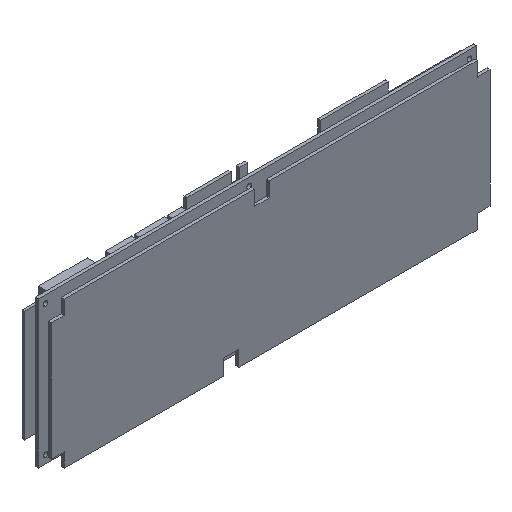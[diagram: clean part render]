
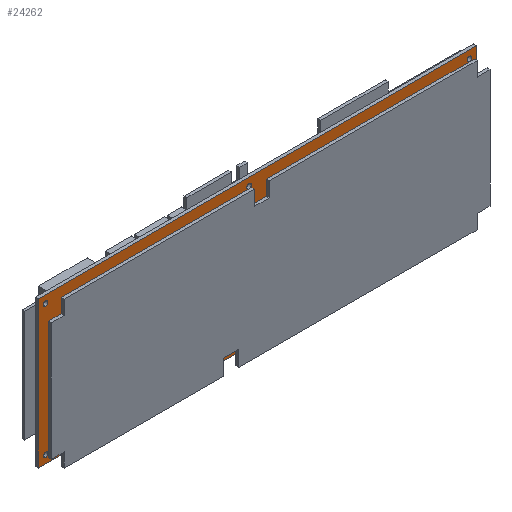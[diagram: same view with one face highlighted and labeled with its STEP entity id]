
A CAD part, isometric view. The second image highlights one B-rep face of the part: STEP entity #24262.
In plain terms, the highlighted planar face has unit normal (0, -1, 0).
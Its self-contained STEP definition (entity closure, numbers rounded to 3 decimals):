
#200 = ORIENTED_EDGE ( 'NONE', *, *, #21377, .T. ) ;
#258 = FACE_BOUND ( 'NONE', #23009, .T. ) ;
#496 = VECTOR ( 'NONE', #18275, 1000. ) ;
#765 = CARTESIAN_POINT ( 'NONE',  ( 145., 0., -43.21 ) ) ;
#826 = DIRECTION ( 'NONE',  ( 0., 0., 1. ) ) ;
#1002 = CARTESIAN_POINT ( 'NONE',  ( -145., 0., -43.21 ) ) ;
#1011 = DIRECTION ( 'NONE',  ( 0., 0., 1. ) ) ;
#1087 = EDGE_LOOP ( 'NONE', ( #3709, #21741 ) ) ;
#1433 = VERTEX_POINT ( 'NONE', #3224 ) ;
#1811 = AXIS2_PLACEMENT_3D ( 'NONE', #26564, #7088, #20149 ) ;
#1819 = EDGE_CURVE ( 'NONE', #27532, #10221, #26132, .T. ) ;
#2158 = DIRECTION ( 'NONE',  ( 0., -1., 0. ) ) ;
#2294 = EDGE_CURVE ( 'NONE', #4044, #8837, #20700, .T. ) ;
#2303 = EDGE_CURVE ( 'NONE', #1433, #12227, #26157, .T. ) ;
#2436 = DIRECTION ( 'NONE',  ( 0., -1., 0. ) ) ;
#2802 = AXIS2_PLACEMENT_3D ( 'NONE', #10492, #2158, #21245 ) ;
#2978 = AXIS2_PLACEMENT_3D ( 'NONE', #16361, #3230, #11941 ) ;
#2996 = DIRECTION ( 'NONE',  ( 0., 1., 0. ) ) ;
#3224 = CARTESIAN_POINT ( 'NONE',  ( -145., 0., 46.39 ) ) ;
#3230 = DIRECTION ( 'NONE',  ( 0., 1., 0. ) ) ;
#3709 = ORIENTED_EDGE ( 'NONE', *, *, #21461, .F. ) ;
#3875 = AXIS2_PLACEMENT_3D ( 'NONE', #26516, #2436, #15152 ) ;
#4044 = VERTEX_POINT ( 'NONE', #1002 ) ;
#4162 = ORIENTED_EDGE ( 'NONE', *, *, #22180, .T. ) ;
#4716 = CARTESIAN_POINT ( 'NONE',  ( 0., 0., 0. ) ) ;
#4753 = CARTESIAN_POINT ( 'NONE',  ( 145., 0., 43.21 ) ) ;
#4849 = CARTESIAN_POINT ( 'NONE',  ( 150.075, 0., -50.11 ) ) ;
#4860 = EDGE_LOOP ( 'NONE', ( #11381, #22281 ) ) ;
#4980 = ORIENTED_EDGE ( 'NONE', *, *, #2294, .T. ) ;
#5133 = ORIENTED_EDGE ( 'NONE', *, *, #11841, .T. ) ;
#6093 = EDGE_CURVE ( 'NONE', #16993, #18977, #16824, .T. ) ;
#6243 = DIRECTION ( 'NONE',  ( 1., 0., 0. ) ) ;
#6284 = CARTESIAN_POINT ( 'NONE',  ( 145., 0., -46.39 ) ) ;
#6722 = FACE_BOUND ( 'NONE', #15153, .T. ) ;
#7088 = DIRECTION ( 'NONE',  ( 0., 1., 0. ) ) ;
#7676 = DIRECTION ( 'NONE',  ( 0., 1., 0. ) ) ;
#7777 = AXIS2_PLACEMENT_3D ( 'NONE', #27687, #8179, #9723 ) ;
#8179 = DIRECTION ( 'NONE',  ( 0., 1., 0. ) ) ;
#8504 = CARTESIAN_POINT ( 'NONE',  ( -150.075, 0., 50.11 ) ) ;
#8693 = DIRECTION ( 'NONE',  ( 0., 1., 0. ) ) ;
#8769 = CIRCLE ( 'NONE', #27846, 1.59 ) ;
#8837 = VERTEX_POINT ( 'NONE', #12423 ) ;
#9140 = FACE_OUTER_BOUND ( 'NONE', #23630, .T. ) ;
#9170 = DIRECTION ( 'NONE',  ( 0., -1., 0. ) ) ;
#9324 = CARTESIAN_POINT ( 'NONE',  ( 150.075, 0., -50.11 ) ) ;
#9411 = DIRECTION ( 'NONE',  ( 0., 0., 1. ) ) ;
#9501 = EDGE_CURVE ( 'NONE', #26508, #25175, #23617, .T. ) ;
#9650 = AXIS2_PLACEMENT_3D ( 'NONE', #22633, #9170, #26517 ) ;
#9680 = EDGE_CURVE ( 'NONE', #8837, #4044, #24558, .T. ) ;
#9723 = DIRECTION ( 'NONE',  ( 0., 0., 1. ) ) ;
#9837 = CARTESIAN_POINT ( 'NONE',  ( -145., 0., 44.8 ) ) ;
#9961 = DIRECTION ( 'NONE',  ( 0., 1., 0. ) ) ;
#10177 = CARTESIAN_POINT ( 'NONE',  ( -5.85, 0., 46.39 ) ) ;
#10221 = VERTEX_POINT ( 'NONE', #765 ) ;
#10492 = CARTESIAN_POINT ( 'NONE',  ( 145., 0., -44.8 ) ) ;
#10590 = AXIS2_PLACEMENT_3D ( 'NONE', #21185, #8693, #17362 ) ;
#10764 = VERTEX_POINT ( 'NONE', #15920 ) ;
#10969 = CARTESIAN_POINT ( 'NONE',  ( -150.075, 0., -50.11 ) ) ;
#10986 = EDGE_CURVE ( 'NONE', #10221, #27532, #14205, .T. ) ;
#11278 = FACE_BOUND ( 'NONE', #19786, .T. ) ;
#11279 = EDGE_CURVE ( 'NONE', #10764, #19670, #22805, .T. ) ;
#11381 = ORIENTED_EDGE ( 'NONE', *, *, #13854, .T. ) ;
#11453 = ORIENTED_EDGE ( 'NONE', *, *, #9680, .T. ) ;
#11583 = ORIENTED_EDGE ( 'NONE', *, *, #19759, .F. ) ;
#11841 = EDGE_CURVE ( 'NONE', #19670, #10764, #26974, .T. ) ;
#11941 = DIRECTION ( 'NONE',  ( 0., 0., 1. ) ) ;
#11967 = VERTEX_POINT ( 'NONE', #27847 ) ;
#12227 = VERTEX_POINT ( 'NONE', #24892 ) ;
#12423 = CARTESIAN_POINT ( 'NONE',  ( -145., 0., -46.39 ) ) ;
#13266 = FACE_BOUND ( 'NONE', #24094, .T. ) ;
#13409 = CARTESIAN_POINT ( 'NONE',  ( -27., 0., -43.21 ) ) ;
#13730 = CIRCLE ( 'NONE', #9650, 1.59 ) ;
#13828 = AXIS2_PLACEMENT_3D ( 'NONE', #13872, #24789, #1011 ) ;
#13854 = EDGE_CURVE ( 'NONE', #25175, #26508, #14288, .T. ) ;
#13872 = CARTESIAN_POINT ( 'NONE',  ( -5.85, 0., 44.8 ) ) ;
#13908 = AXIS2_PLACEMENT_3D ( 'NONE', #23132, #20576, #14364 ) ;
#14205 = CIRCLE ( 'NONE', #2802, 1.59 ) ;
#14288 = CIRCLE ( 'NONE', #13828, 1.59 ) ;
#14364 = DIRECTION ( 'NONE',  ( 0., 0., 1. ) ) ;
#14595 = EDGE_CURVE ( 'NONE', #16857, #11967, #15713, .T. ) ;
#15152 = DIRECTION ( 'NONE',  ( 0., 0., 1. ) ) ;
#15153 = EDGE_LOOP ( 'NONE', ( #5133, #25185 ) ) ;
#15408 = FACE_BOUND ( 'NONE', #4860, .T. ) ;
#15553 = PLANE ( 'NONE',  #21950 ) ;
#15713 = CIRCLE ( 'NONE', #19331, 1.59 ) ;
#15920 = CARTESIAN_POINT ( 'NONE',  ( -27., 0., -46.39 ) ) ;
#16190 = VECTOR ( 'NONE', #6243, 1000. ) ;
#16302 = CARTESIAN_POINT ( 'NONE',  ( -150.075, 0., -50.11 ) ) ;
#16361 = CARTESIAN_POINT ( 'NONE',  ( -145., 0., -44.8 ) ) ;
#16514 = CARTESIAN_POINT ( 'NONE',  ( 150.075, 0., 50.11 ) ) ;
#16593 = ORIENTED_EDGE ( 'NONE', *, *, #10986, .F. ) ;
#16661 = CARTESIAN_POINT ( 'NONE',  ( -150.075, 0., 50.11 ) ) ;
#16824 = LINE ( 'NONE', #10969, #28031 ) ;
#16857 = VERTEX_POINT ( 'NONE', #4753 ) ;
#16993 = VERTEX_POINT ( 'NONE', #16302 ) ;
#17362 = DIRECTION ( 'NONE',  ( 0., 0., 1. ) ) ;
#17367 = ORIENTED_EDGE ( 'NONE', *, *, #25500, .F. ) ;
#17385 = ORIENTED_EDGE ( 'NONE', *, *, #1819, .F. ) ;
#18275 = DIRECTION ( 'NONE',  ( 0., 0., 1. ) ) ;
#18304 = ORIENTED_EDGE ( 'NONE', *, *, #2303, .T. ) ;
#18522 = DIRECTION ( 'NONE',  ( 0., 0., 1. ) ) ;
#18750 = CARTESIAN_POINT ( 'NONE',  ( -27., 0., -44.8 ) ) ;
#18977 = VERTEX_POINT ( 'NONE', #4849 ) ;
#19185 = LINE ( 'NONE', #16661, #16190 ) ;
#19331 = AXIS2_PLACEMENT_3D ( 'NONE', #22722, #22444, #9411 ) ;
#19632 = DIRECTION ( 'NONE',  ( 1., 0., 0. ) ) ;
#19670 = VERTEX_POINT ( 'NONE', #13409 ) ;
#19759 = EDGE_CURVE ( 'NONE', #16993, #24739, #22318, .T. ) ;
#19786 = EDGE_LOOP ( 'NONE', ( #16593, #17385 ) ) ;
#20148 = ORIENTED_EDGE ( 'NONE', *, *, #6093, .T. ) ;
#20149 = DIRECTION ( 'NONE',  ( 0., 0., 1. ) ) ;
#20210 = CARTESIAN_POINT ( 'NONE',  ( -150.075, 0., -50.11 ) ) ;
#20576 = DIRECTION ( 'NONE',  ( 0., 1., 0. ) ) ;
#20700 = CIRCLE ( 'NONE', #2978, 1.59 ) ;
#21185 = CARTESIAN_POINT ( 'NONE',  ( -27., 0., -44.8 ) ) ;
#21245 = DIRECTION ( 'NONE',  ( 0., 0., 1. ) ) ;
#21377 = EDGE_CURVE ( 'NONE', #18977, #23454, #22493, .T. ) ;
#21459 = AXIS2_PLACEMENT_3D ( 'NONE', #18750, #9961, #25421 ) ;
#21461 = EDGE_CURVE ( 'NONE', #11967, #16857, #13730, .T. ) ;
#21595 = CARTESIAN_POINT ( 'NONE',  ( -5.85, 0., 43.21 ) ) ;
#21741 = ORIENTED_EDGE ( 'NONE', *, *, #14595, .F. ) ;
#21950 = AXIS2_PLACEMENT_3D ( 'NONE', #4716, #2996, #18522 ) ;
#22180 = EDGE_CURVE ( 'NONE', #12227, #1433, #8769, .T. ) ;
#22281 = ORIENTED_EDGE ( 'NONE', *, *, #9501, .T. ) ;
#22318 = LINE ( 'NONE', #20210, #27312 ) ;
#22444 = DIRECTION ( 'NONE',  ( 0., -1., 0. ) ) ;
#22493 = LINE ( 'NONE', #9324, #496 ) ;
#22633 = CARTESIAN_POINT ( 'NONE',  ( 145., 0., 44.8 ) ) ;
#22722 = CARTESIAN_POINT ( 'NONE',  ( 145., 0., 44.8 ) ) ;
#22805 = CIRCLE ( 'NONE', #10590, 1.59 ) ;
#23009 = EDGE_LOOP ( 'NONE', ( #18304, #4162 ) ) ;
#23132 = CARTESIAN_POINT ( 'NONE',  ( -145., 0., 44.8 ) ) ;
#23454 = VERTEX_POINT ( 'NONE', #16514 ) ;
#23617 = CIRCLE ( 'NONE', #1811, 1.59 ) ;
#23630 = EDGE_LOOP ( 'NONE', ( #11583, #20148, #200, #17367 ) ) ;
#24022 = FACE_BOUND ( 'NONE', #1087, .T. ) ;
#24094 = EDGE_LOOP ( 'NONE', ( #4980, #11453 ) ) ;
#24262 = ADVANCED_FACE ( 'NONE', ( #6722, #15408, #11278, #24022, #13266, #258, #9140 ), #15553, .F. ) ;
#24558 = CIRCLE ( 'NONE', #7777, 1.59 ) ;
#24739 = VERTEX_POINT ( 'NONE', #8504 ) ;
#24789 = DIRECTION ( 'NONE',  ( 0., 1., 0. ) ) ;
#24892 = CARTESIAN_POINT ( 'NONE',  ( -145., 0., 43.21 ) ) ;
#25175 = VERTEX_POINT ( 'NONE', #10177 ) ;
#25185 = ORIENTED_EDGE ( 'NONE', *, *, #11279, .T. ) ;
#25421 = DIRECTION ( 'NONE',  ( 0., 0., 1. ) ) ;
#25500 = EDGE_CURVE ( 'NONE', #24739, #23454, #19185, .T. ) ;
#26132 = CIRCLE ( 'NONE', #3875, 1.59 ) ;
#26157 = CIRCLE ( 'NONE', #13908, 1.59 ) ;
#26508 = VERTEX_POINT ( 'NONE', #21595 ) ;
#26516 = CARTESIAN_POINT ( 'NONE',  ( 145., 0., -44.8 ) ) ;
#26517 = DIRECTION ( 'NONE',  ( 0., 0., 1. ) ) ;
#26564 = CARTESIAN_POINT ( 'NONE',  ( -5.85, 0., 44.8 ) ) ;
#26884 = DIRECTION ( 'NONE',  ( 0., 0., 1. ) ) ;
#26974 = CIRCLE ( 'NONE', #21459, 1.59 ) ;
#27312 = VECTOR ( 'NONE', #826, 1000. ) ;
#27532 = VERTEX_POINT ( 'NONE', #6284 ) ;
#27687 = CARTESIAN_POINT ( 'NONE',  ( -145., 0., -44.8 ) ) ;
#27846 = AXIS2_PLACEMENT_3D ( 'NONE', #9837, #7676, #26884 ) ;
#27847 = CARTESIAN_POINT ( 'NONE',  ( 145., 0., 46.39 ) ) ;
#28031 = VECTOR ( 'NONE', #19632, 1000. ) ;
